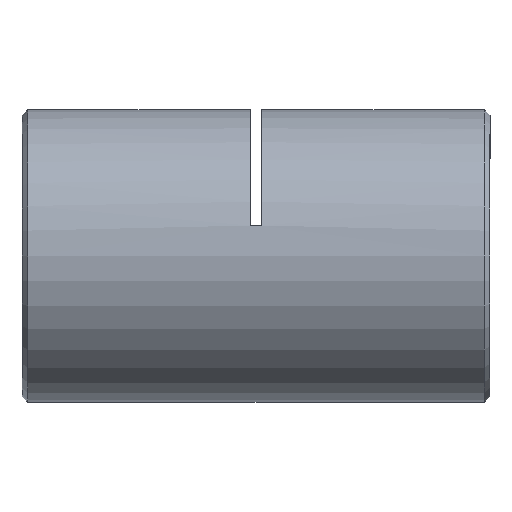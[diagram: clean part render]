
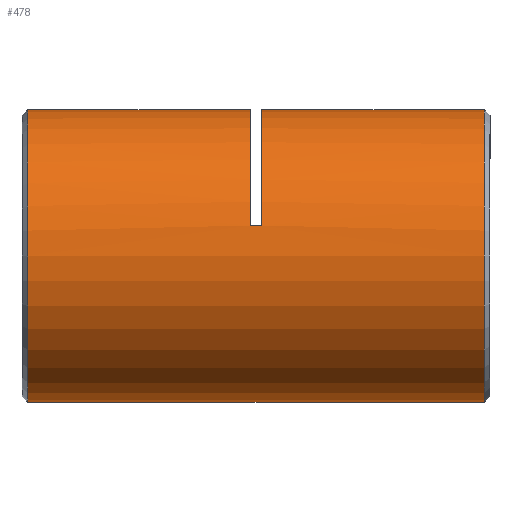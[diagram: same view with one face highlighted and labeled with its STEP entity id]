
A CAD part, left-side view. The second image highlights one B-rep face of the part: STEP entity #478.
In plain terms, the highlighted cylindrical face has radius 12.5 mm (diameter 25 mm), a partial arc.
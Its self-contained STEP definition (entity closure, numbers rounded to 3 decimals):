
#9 = FACE_OUTER_BOUND ( 'NONE', #4438, .T. ) ;
#37 = DIRECTION ( 'NONE',  ( 0., -1., 0. ) ) ;
#51 = CARTESIAN_POINT ( 'NONE',  ( 0., 39.75, 12.5 ) ) ;
#132 = EDGE_CURVE ( 'NONE', #4492, #2878, #4575, .T. ) ;
#138 = CARTESIAN_POINT ( 'NONE',  ( 0., 20.75, 0. ) ) ;
#249 = AXIS2_PLACEMENT_3D ( 'NONE', #5758, #4940, #3132 ) ;
#347 = ORIENTED_EDGE ( 'NONE', *, *, #2488, .F. ) ;
#375 = CYLINDRICAL_SURFACE ( 'NONE', #3272, 12.5 ) ;
#478 = ADVANCED_FACE ( 'NONE', ( #9 ), #375, .T. ) ;
#493 = CARTESIAN_POINT ( 'NONE',  ( 0., 40.5, -12.5 ) ) ;
#625 = LINE ( 'NONE', #3897, #5844 ) ;
#709 = DIRECTION ( 'NONE',  ( 0., 1., 0. ) ) ;
#711 = CIRCLE ( 'NONE', #4510, 12.5 ) ;
#734 = VERTEX_POINT ( 'NONE', #51 ) ;
#750 = VERTEX_POINT ( 'NONE', #3249 ) ;
#775 = VERTEX_POINT ( 'NONE', #4681 ) ;
#887 = VECTOR ( 'NONE', #2258, 1000. ) ;
#971 = CARTESIAN_POINT ( 'NONE',  ( -12.226, 20.75, 2.604 ) ) ;
#1133 = DIRECTION ( 'NONE',  ( 0., 1., 0. ) ) ;
#1175 = CIRCLE ( 'NONE', #249, 12.5 ) ;
#1260 = EDGE_CURVE ( 'NONE', #734, #775, #4607, .T. ) ;
#1315 = EDGE_CURVE ( 'NONE', #3553, #2878, #711, .T. ) ;
#1454 = EDGE_CURVE ( 'NONE', #750, #4492, #1175, .T. ) ;
#1493 = VERTEX_POINT ( 'NONE', #1692 ) ;
#1580 = DIRECTION ( 'NONE',  ( 0., 0., -1. ) ) ;
#1692 = CARTESIAN_POINT ( 'NONE',  ( 0., 20.75, 12.5 ) ) ;
#1974 = CARTESIAN_POINT ( 'NONE',  ( 0., 0.75, 0. ) ) ;
#2003 = CARTESIAN_POINT ( 'NONE',  ( 0., 39.75, 0. ) ) ;
#2092 = CARTESIAN_POINT ( 'NONE',  ( 0., 40.5, 12.5 ) ) ;
#2152 = VECTOR ( 'NONE', #37, 1000. ) ;
#2258 = DIRECTION ( 'NONE',  ( 0., -1., 0. ) ) ;
#2376 = CARTESIAN_POINT ( 'NONE',  ( 0., 19.75, 12.5 ) ) ;
#2418 = VERTEX_POINT ( 'NONE', #971 ) ;
#2488 = EDGE_CURVE ( 'NONE', #734, #1493, #2984, .T. ) ;
#2613 = CARTESIAN_POINT ( 'NONE',  ( 0., 40.5, 0. ) ) ;
#2688 = CARTESIAN_POINT ( 'NONE',  ( 0., 40.5, 12.5 ) ) ;
#2806 = ORIENTED_EDGE ( 'NONE', *, *, #4383, .T. ) ;
#2878 = VERTEX_POINT ( 'NONE', #4727 ) ;
#2929 = DIRECTION ( 'NONE',  ( 0., 1., 0. ) ) ;
#2984 = LINE ( 'NONE', #2092, #5648 ) ;
#3129 = DIRECTION ( 'NONE',  ( 0., 0., -1. ) ) ;
#3132 = DIRECTION ( 'NONE',  ( 0., 0., 1. ) ) ;
#3167 = ORIENTED_EDGE ( 'NONE', *, *, #132, .F. ) ;
#3238 = CARTESIAN_POINT ( 'NONE',  ( 0., 0.75, -12.5 ) ) ;
#3249 = CARTESIAN_POINT ( 'NONE',  ( -12.226, 19.75, 2.604 ) ) ;
#3255 = EDGE_CURVE ( 'NONE', #750, #2418, #625, .T. ) ;
#3272 = AXIS2_PLACEMENT_3D ( 'NONE', #2613, #4908, #3129 ) ;
#3370 = AXIS2_PLACEMENT_3D ( 'NONE', #2003, #3454, #1580 ) ;
#3454 = DIRECTION ( 'NONE',  ( 0., -1., 0. ) ) ;
#3480 = ORIENTED_EDGE ( 'NONE', *, *, #1315, .T. ) ;
#3553 = VERTEX_POINT ( 'NONE', #3238 ) ;
#3690 = ORIENTED_EDGE ( 'NONE', *, *, #4988, .T. ) ;
#3827 = DIRECTION ( 'NONE',  ( 0., -1., 0. ) ) ;
#3876 = CIRCLE ( 'NONE', #4632, 12.5 ) ;
#3897 = CARTESIAN_POINT ( 'NONE',  ( -12.226, 20.25, 2.604 ) ) ;
#4239 = DIRECTION ( 'NONE',  ( 0., 0., 1. ) ) ;
#4383 = EDGE_CURVE ( 'NONE', #775, #3553, #5499, .T. ) ;
#4438 = EDGE_LOOP ( 'NONE', ( #347, #5295, #2806, #3480, #3167, #4831, #5375, #3690 ) ) ;
#4492 = VERTEX_POINT ( 'NONE', #2376 ) ;
#4510 = AXIS2_PLACEMENT_3D ( 'NONE', #1974, #1133, #4239 ) ;
#4575 = LINE ( 'NONE', #2688, #887 ) ;
#4607 = CIRCLE ( 'NONE', #3370, 12.5 ) ;
#4632 = AXIS2_PLACEMENT_3D ( 'NONE', #138, #2929, #5144 ) ;
#4681 = CARTESIAN_POINT ( 'NONE',  ( 0., 39.75, -12.5 ) ) ;
#4727 = CARTESIAN_POINT ( 'NONE',  ( 0., 0.75, 12.5 ) ) ;
#4831 = ORIENTED_EDGE ( 'NONE', *, *, #1454, .F. ) ;
#4908 = DIRECTION ( 'NONE',  ( 0., -1., 0. ) ) ;
#4940 = DIRECTION ( 'NONE',  ( 0., 1., 0. ) ) ;
#4988 = EDGE_CURVE ( 'NONE', #2418, #1493, #3876, .T. ) ;
#5144 = DIRECTION ( 'NONE',  ( 0., 0., 1. ) ) ;
#5295 = ORIENTED_EDGE ( 'NONE', *, *, #1260, .T. ) ;
#5375 = ORIENTED_EDGE ( 'NONE', *, *, #3255, .T. ) ;
#5499 = LINE ( 'NONE', #493, #2152 ) ;
#5648 = VECTOR ( 'NONE', #3827, 1000. ) ;
#5758 = CARTESIAN_POINT ( 'NONE',  ( 0., 19.75, 0. ) ) ;
#5844 = VECTOR ( 'NONE', #709, 1000. ) ;
